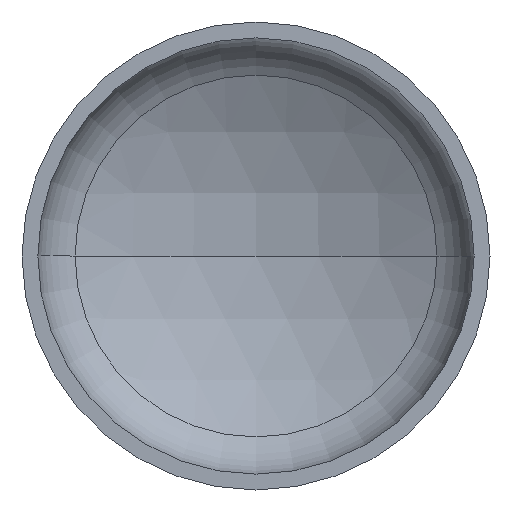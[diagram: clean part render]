
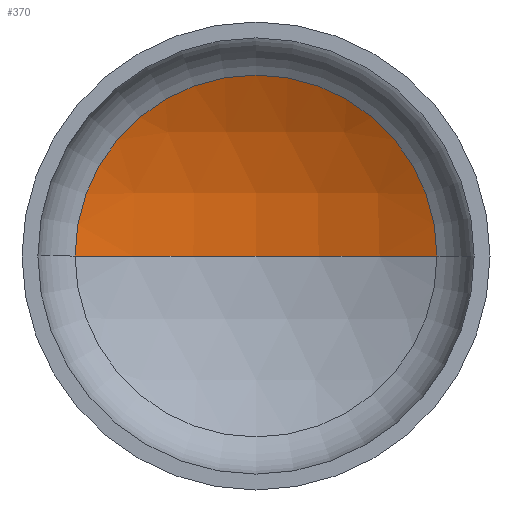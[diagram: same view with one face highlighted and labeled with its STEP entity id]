
A CAD part, front view. The second image highlights one B-rep face of the part: STEP entity #370.
In plain terms, the highlighted spherical face has radius 2080 mm.
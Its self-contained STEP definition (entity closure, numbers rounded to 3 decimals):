
#6 = DIRECTION ( 'NONE',  ( -1., 0., 0. ) ) ;
#7 = AXIS2_PLACEMENT_3D ( 'NONE', #245, #287, #102 ) ;
#8 = ORIENTED_EDGE ( 'NONE', *, *, #137, .T. ) ;
#14 = DIRECTION ( 'NONE',  ( 0., 0., -1. ) ) ;
#19 = VERTEX_POINT ( 'NONE', #290 ) ;
#23 = CARTESIAN_POINT ( 'NONE',  ( 0., -1370.733, 0. ) ) ;
#37 = EDGE_LOOP ( 'NONE', ( #71, #8, #152 ) ) ;
#43 = AXIS2_PLACEMENT_3D ( 'NONE', #357, #192, #221 ) ;
#46 = AXIS2_PLACEMENT_3D ( 'NONE', #23, #14, #6 ) ;
#48 = AXIS2_PLACEMENT_3D ( 'NONE', #205, #52, #289 ) ;
#52 = DIRECTION ( 'NONE',  ( 0., -1., 0. ) ) ;
#71 = ORIENTED_EDGE ( 'NONE', *, *, #145, .F. ) ;
#102 = DIRECTION ( 'NONE',  ( -1., 0., 0. ) ) ;
#121 = EDGE_CURVE ( 'NONE', #19, #155, #299, .T. ) ;
#137 = EDGE_CURVE ( 'NONE', #175, #19, #292, .T. ) ;
#145 = EDGE_CURVE ( 'NONE', #175, #155, #405, .T. ) ;
#152 = ORIENTED_EDGE ( 'NONE', *, *, #121, .T. ) ;
#155 = VERTEX_POINT ( 'NONE', #355 ) ;
#175 = VERTEX_POINT ( 'NONE', #219 ) ;
#192 = DIRECTION ( 'NONE',  ( 0., 0., 1. ) ) ;
#205 = CARTESIAN_POINT ( 'NONE',  ( 0., 450.175, 0. ) ) ;
#219 = CARTESIAN_POINT ( 'NONE',  ( 0., 709.267, 0. ) ) ;
#221 = DIRECTION ( 'NONE',  ( 1., 0., 0. ) ) ;
#245 = CARTESIAN_POINT ( 'NONE',  ( 0., -1370.733, 0. ) ) ;
#287 = DIRECTION ( 'NONE',  ( 0., 0., -1. ) ) ;
#289 = DIRECTION ( 'NONE',  ( 1., 0., 0. ) ) ;
#290 = CARTESIAN_POINT ( 'NONE',  ( 1005.333, 450.175, 0. ) ) ;
#292 = CIRCLE ( 'NONE', #46, 2080. ) ;
#299 = CIRCLE ( 'NONE', #48, 1005.333 ) ;
#311 = FACE_OUTER_BOUND ( 'NONE', #37, .T. ) ;
#355 = CARTESIAN_POINT ( 'NONE',  ( -1005.333, 450.175, 0. ) ) ;
#357 = CARTESIAN_POINT ( 'NONE',  ( 0., -1370.733, 0. ) ) ;
#369 = SPHERICAL_SURFACE ( 'NONE', #7, 2080. ) ;
#370 = ADVANCED_FACE ( 'NONE', ( #311 ), #369, .F. ) ;
#405 = CIRCLE ( 'NONE', #43, 2080. ) ;
